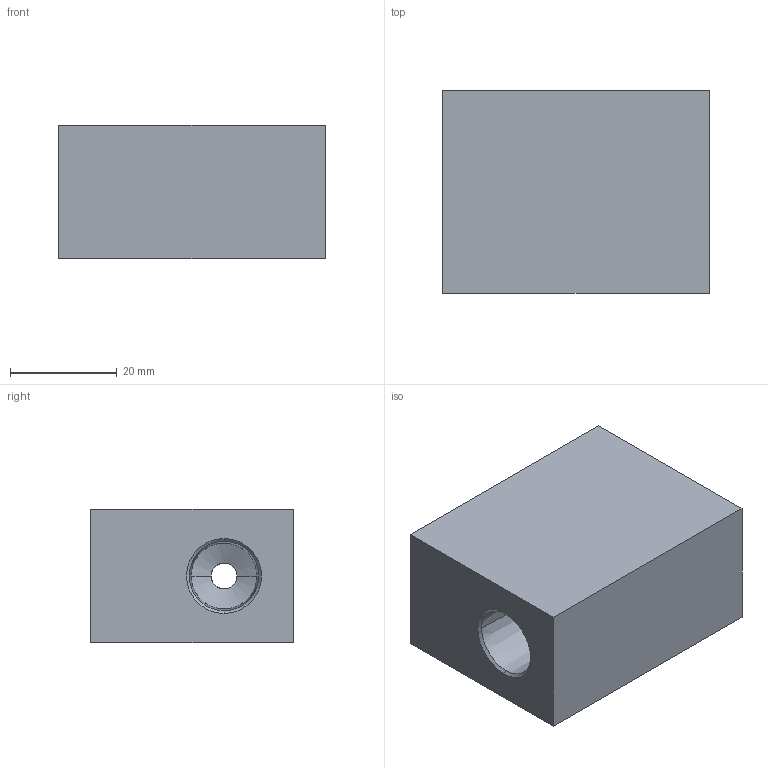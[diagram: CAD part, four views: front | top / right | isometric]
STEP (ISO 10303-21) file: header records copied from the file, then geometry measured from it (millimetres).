
FILE_DESCRIPTION (( 'STEP AP203' ), '1' );
FILE_NAME ('FTPTS04.STEP', '2026-06-26T01:50:27', ( 'USER' ), ( '' ), 'SwSTEP 2.0', 'SolidWorks 2023', '' );
FILE_SCHEMA (( 'CONFIG_CONTROL_DESIGN' ));
Length unit declared in the file: millimetre
Products named in the file (1): FTPTS04
Bounding box: 50 x 38 x 25 mm (x, y, z)
Volume: 41191.4 mm3; surface area: 10205.7 mm2
Topology: 1 solids, 1 shells, 34 faces, 81 edges, 48 vertices
Faces by surface type: cone 18, cylinder 10, plane 6
Entity records: 1062 total; most frequent: DIRECTION 183, CARTESIAN_POINT 176, ORIENTED_EDGE 162, EDGE_CURVE 81, AXIS2_PLACEMENT_3D 71, VERTEX_POINT 48, VECTOR 41, LINE 41
